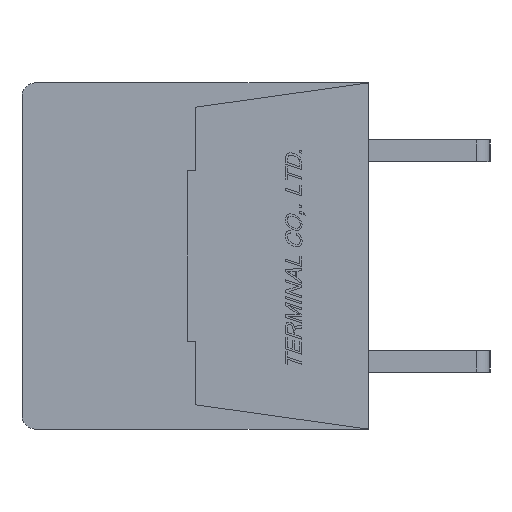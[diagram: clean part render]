
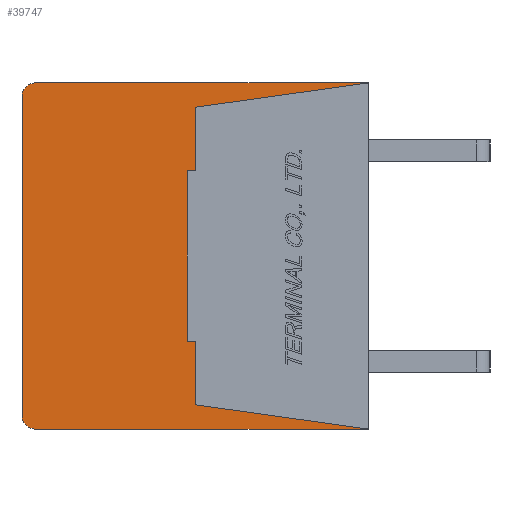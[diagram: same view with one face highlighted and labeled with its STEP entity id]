
A CAD part, left-side view. The second image highlights one B-rep face of the part: STEP entity #39747.
In plain terms, the highlighted planar face has unit normal (-1, 0, 0).
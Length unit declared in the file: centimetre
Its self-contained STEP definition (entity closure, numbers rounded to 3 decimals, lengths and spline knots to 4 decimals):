
#2035=CIRCLE('',#67931,0.05);
#2036=CIRCLE('',#67934,0.05);
#3689=VERTEX_POINT('',#55537);
#3690=VERTEX_POINT('',#55539);
#3691=VERTEX_POINT('',#55543);
#3692=VERTEX_POINT('',#55547);
#3693=VERTEX_POINT('',#55551);
#3694=VERTEX_POINT('',#55555);
#3695=VERTEX_POINT('',#55558);
#3696=VERTEX_POINT('',#55560);
#3697=VERTEX_POINT('',#55562);
#3698=VERTEX_POINT('',#55564);
#3699=VERTEX_POINT('',#55566);
#3700=VERTEX_POINT('',#55568);
#7844=VECTOR('',#46153,1.);
#7848=VECTOR('',#46162,1.);
#7851=VECTOR('',#46170,1.);
#7852=VECTOR('',#46171,1.);
#7853=VECTOR('',#46172,1.);
#7854=VECTOR('',#46173,1.);
#7855=VECTOR('',#46174,1.);
#7856=VECTOR('',#46175,1.);
#7857=VECTOR('',#46176,1.);
#7858=VECTOR('',#46177,1.);
#12513=LINE('',#55538,#7844);
#12517=LINE('',#55548,#7848);
#12520=LINE('',#55556,#7851);
#12521=LINE('',#55557,#7852);
#12522=LINE('',#55559,#7853);
#12523=LINE('',#55561,#7854);
#12524=LINE('',#55563,#7855);
#12525=LINE('',#55565,#7856);
#12526=LINE('',#55567,#7857);
#12527=LINE('',#55569,#7858);
#17776=EDGE_CURVE('',#3690,#3689,#12513,.T.);
#17779=EDGE_CURVE('',#3691,#3689,#2035,.T.);
#17781=EDGE_CURVE('',#3691,#3692,#12517,.T.);
#17783=EDGE_CURVE('',#3693,#3692,#2036,.T.);
#17785=EDGE_CURVE('',#3693,#3694,#12520,.T.);
#17786=EDGE_CURVE('',#3695,#3690,#12521,.T.);
#17787=EDGE_CURVE('',#3694,#3696,#12522,.T.);
#17788=EDGE_CURVE('',#3696,#3697,#12523,.T.);
#17789=EDGE_CURVE('',#3697,#3698,#12524,.T.);
#17790=EDGE_CURVE('',#3698,#3699,#12525,.T.);
#17791=EDGE_CURVE('',#3699,#3700,#12526,.T.);
#17792=EDGE_CURVE('',#3700,#3695,#12527,.T.);
#25861=ORIENTED_EDGE('',*,*,#17786,.T.);
#25862=ORIENTED_EDGE('',*,*,#17776,.T.);
#25863=ORIENTED_EDGE('',*,*,#17779,.F.);
#25864=ORIENTED_EDGE('',*,*,#17781,.T.);
#25865=ORIENTED_EDGE('',*,*,#17783,.F.);
#25866=ORIENTED_EDGE('',*,*,#17785,.T.);
#25867=ORIENTED_EDGE('',*,*,#17787,.T.);
#25868=ORIENTED_EDGE('',*,*,#17788,.T.);
#25869=ORIENTED_EDGE('',*,*,#17789,.T.);
#25870=ORIENTED_EDGE('',*,*,#17790,.T.);
#25871=ORIENTED_EDGE('',*,*,#17791,.T.);
#25872=ORIENTED_EDGE('',*,*,#17792,.T.);
#34641=EDGE_LOOP('',(#25861,#25862,#25863,#25864,#25865,#25866,#25867,#25868,
#25869,#25870,#25871,#25872));
#37248=FACE_BOUND('',#34641,.T.);
#39747=ADVANCED_FACE('',(#37248),#41885,.F.);
#41885=PLANE('',#67928);
#46039=DIRECTION('',(1.,0.,0.));
#46153=DIRECTION('',(0.,1.,0.));
#46158=DIRECTION('',(1.,0.,0.));
#46159=DIRECTION('',(0.,0.,-0.05));
#46162=DIRECTION('',(0.,0.,-1.));
#46166=DIRECTION('',(1.,0.,0.));
#46167=DIRECTION('',(0.,0.,-0.05));
#46170=DIRECTION('',(0.,-1.,0.));
#46171=DIRECTION('',(0.,-0.99,0.139));
#46172=DIRECTION('',(0.,0.99,0.139));
#46173=DIRECTION('',(0.,0.,1.));
#46174=DIRECTION('',(0.,1.,0.));
#46175=DIRECTION('',(0.,0.,1.));
#46176=DIRECTION('',(0.,-1.,0.));
#46177=DIRECTION('',(0.,0.,1.));
#55104=CARTESIAN_POINT('',(-1.,0.6345,0.));
#55537=CARTESIAN_POINT('',(-1.,1.23,0.64));
#55538=CARTESIAN_POINT('',(-1.,0.,0.64));
#55539=CARTESIAN_POINT('',(-1.,0.,0.64));
#55543=CARTESIAN_POINT('',(-1.,1.28,0.59));
#55544=CARTESIAN_POINT('',(-1.,1.23,0.59));
#55547=CARTESIAN_POINT('',(-1.,1.28,-0.59));
#55548=CARTESIAN_POINT('',(-1.,1.28,0.59));
#55551=CARTESIAN_POINT('',(-1.,1.23,-0.64));
#55552=CARTESIAN_POINT('',(-1.,1.23,-0.59));
#55555=CARTESIAN_POINT('',(-1.,0.,-0.64));
#55556=CARTESIAN_POINT('',(-1.,1.23,-0.64));
#55557=CARTESIAN_POINT('',(-1.,0.64,0.55));
#55558=CARTESIAN_POINT('',(-1.,0.64,0.55));
#55559=CARTESIAN_POINT('',(-1.,0.,-0.64));
#55560=CARTESIAN_POINT('',(-1.,0.64,-0.55));
#55561=CARTESIAN_POINT('',(-1.,0.64,-0.55));
#55562=CARTESIAN_POINT('',(-1.,0.64,-0.315));
#55563=CARTESIAN_POINT('',(-1.,0.64,-0.315));
#55564=CARTESIAN_POINT('',(-1.,0.67,-0.315));
#55565=CARTESIAN_POINT('',(-1.,0.67,-0.315));
#55566=CARTESIAN_POINT('',(-1.,0.67,0.315));
#55567=CARTESIAN_POINT('',(-1.,0.67,0.315));
#55568=CARTESIAN_POINT('',(-1.,0.64,0.315));
#55569=CARTESIAN_POINT('',(-1.,0.64,0.315));
#67928=AXIS2_PLACEMENT_3D('',#55104,#46039,$);
#67931=AXIS2_PLACEMENT_3D('',#55544,#46158,#46159);
#67934=AXIS2_PLACEMENT_3D('',#55552,#46166,#46167);
